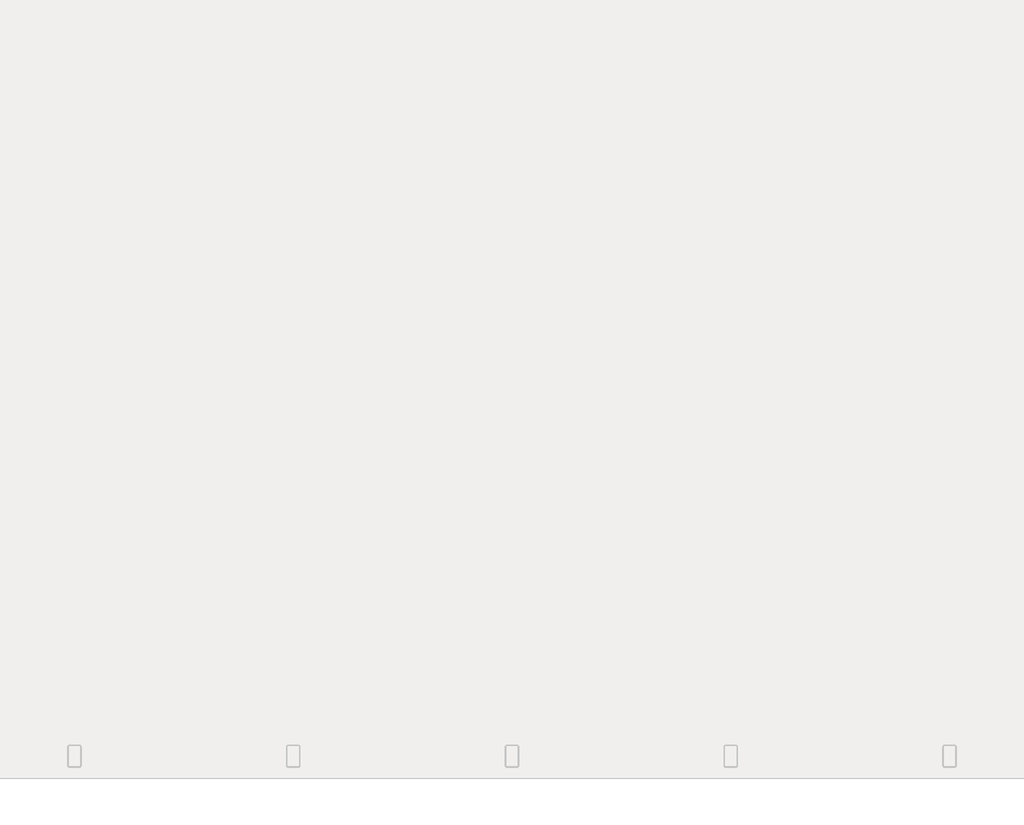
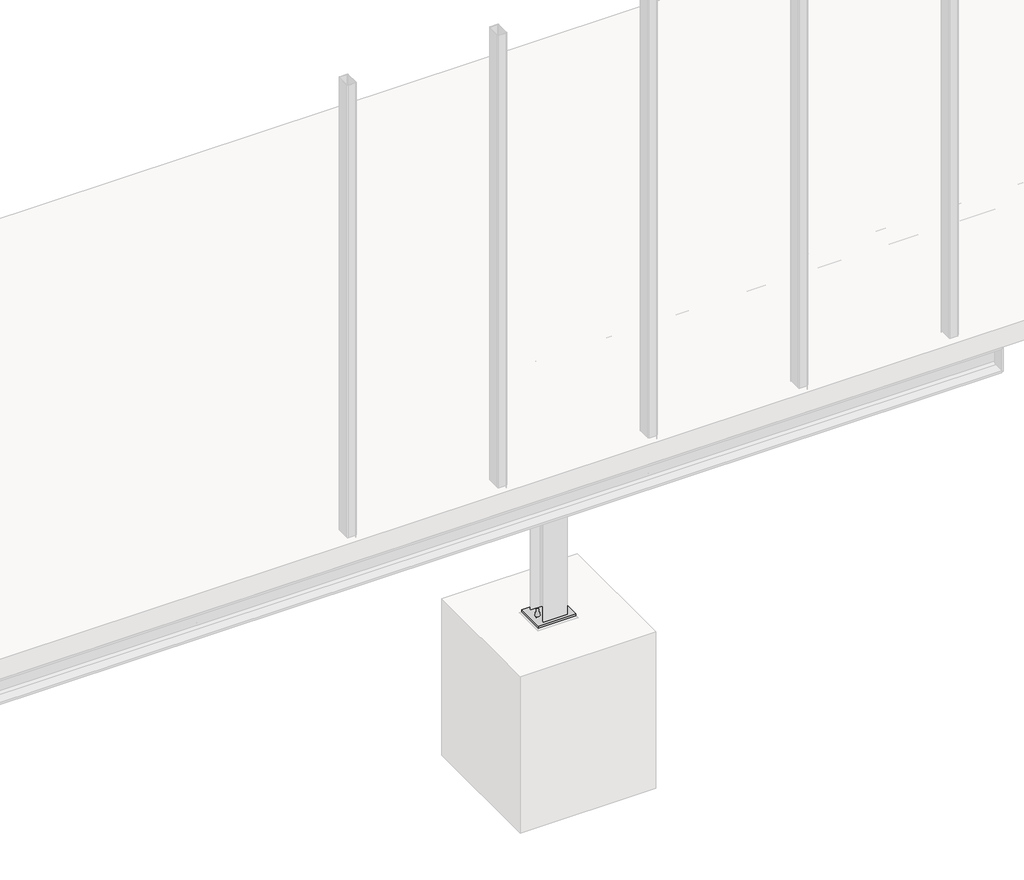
# One storey, part 10 of 36: 11 proxies.
"""IFC4 building model written with IfcOpenShell, lengths in millimetres."""

from ifc_helpers import new_model, si_unit, point, frame, frame_2d, origin, place, context, project, spatial, polyline, circle_curve, trimmed, segment, composite_curve, outline, extrude, element, save

model = new_model("IFC4")

# Units and contexts
model_context = context("Model", 3, world=origin())
ifc_project = project(units=[si_unit("LENGTHUNIT", "METRE", prefix="MILLI")], contexts=[model_context])

# Site, building, storey
site = spatial("IfcSite", under=ifc_project)
building = spatial("IfcBuilding", under=site)
storey = spatial("IfcBuildingStorey", under=building, Name="Základy", Elevation=-1200.0)

# Proxies
placement = place(None, origin())
element("IfcBuildingElementProxy", 1, Name="PLECH", ObjectType="PLECH", at=placement, inside=storey, context=model_context, shape_type="SweptSolid", body=[
    extrude(outline(polyline([(6150.0, 1200.0), (6150.0, 1320.0), (6160.0, 1320.0), (6160.0, 1200.0), (6150.0, 1200.0)])), frame((0.0, 0.0, -299.0), z_axis=(0.0, 0.0, 1.0), x_axis=(1.0, 0.0, 0.0)), (0.0, 0.0, 1.0), 98.0),
])
element("IfcBuildingElementProxy", 2, Name="PLECH", ObjectType="PLECH", at=placement, inside=storey, context=model_context, shape_type="SweptSolid", body=[
    extrude(outline(polyline([(6140.0, 1200.0), (6140.0, 1320.0), (6150.0, 1320.0), (6150.0, 1200.0), (6140.0, 1200.0)])), frame((0.0, 0.0, -332.0), z_axis=(0.0, 0.0, 1.0), x_axis=(1.0, 0.0, 0.0)), (0.0, 0.0, 1.0), 164.0),
])
element("IfcBuildingElementProxy", 3, Name="PLECH", ObjectType="PLECH", at=placement, inside=storey, context=model_context, shape_type="SweptSolid", body=[
    extrude(outline(composite_curve([segment(polyline([(-174.0, 6140.0), (-174.0, 6079.5)]), True, "CONTINUOUS"), segment(trimmed(circle_curve(frame_2d((-174.0, 6054.5)), 25.0), [point((-174.0, 6079.5))], [point((-199.0, 6054.5))], True, "CARTESIAN"), True, "CONTINUOUS"), segment(polyline([(-199.0, 6054.5), (-301.0, 6054.5)]), True, "CONTINUOUS"), segment(trimmed(circle_curve(frame_2d((-326.0, 6054.5)), 25.0), [point((-301.0, 6054.5))], [point((-326.0, 6079.5))], True, "CARTESIAN"), True, "CONTINUOUS"), segment(polyline([(-326.0, 6079.5), (-326.0, 6140.0), (-174.0, 6140.0)]), True, "CONTINUOUS")], self_intersect=False)), frame((0.0, 1256.0, 0.0), z_axis=(0.0, 1.0, 0.0), x_axis=(0.0, 0.0, 1.0)), (0.0, 0.0, 1.0), 8.0),
])
element("IfcBuildingElementProxy", 4, Name="PLECH", ObjectType="PLECH", at=placement, inside=storey, context=model_context, shape_type="SweptSolid", body=[
    extrude(outline(composite_curve([segment(polyline([(-174.0, 5960.0), (-326.0, 5960.0), (-326.0, 6020.5)]), True, "CONTINUOUS"), segment(trimmed(circle_curve(frame_2d((-326.0, 6045.5)), 25.0), [point((-326.0, 6020.5))], [point((-301.0, 6045.5))], True, "CARTESIAN"), True, "CONTINUOUS"), segment(polyline([(-301.0, 6045.5), (-199.0, 6045.5)]), True, "CONTINUOUS"), segment(trimmed(circle_curve(frame_2d((-174.0, 6045.5)), 25.0), [point((-199.0, 6045.5))], [point((-174.0, 6020.5))], True, "CARTESIAN"), True, "CONTINUOUS"), segment(polyline([(-174.0, 6020.5), (-174.0, 5960.0)]), True, "CONTINUOUS")], self_intersect=False)), frame((0.0, 1256.0, 0.0), z_axis=(0.0, 1.0, 0.0), x_axis=(0.0, 0.0, 1.0)), (0.0, 0.0, 1.0), 8.0),
])
element("IfcBuildingElementProxy", 5, Name="PLECH", ObjectType="PLECH", at=placement, inside=storey, context=model_context, shape_type="SweptSolid", body=[
    extrude(outline(polyline([(5960.0, 210.0), (6140.0, 210.0), (6140.0, 200.0), (5960.0, 200.0), (5960.0, 210.0)])), frame((0.0, 0.0, -332.0), z_axis=(0.0, 0.0, 1.0), x_axis=(1.0, 0.0, 0.0)), (0.0, 0.0, 1.0), 164.0),
])
element("IfcBuildingElementProxy", 6, Name="PLECH", ObjectType="PLECH", at=placement, inside=storey, context=model_context, shape_type="SweptSolid", body=[
    extrude(outline(polyline([(6175.0, 1356.0), (6175.0, 1164.0), (5925.0, 1164.0), (5925.0, 1356.0), (6175.0, 1356.0)])), frame((0.0, 0.0, -1990.0), z_axis=(0.0, 0.0, 1.0), x_axis=(1.0, 0.0, 0.0)), (0.0, 0.0, 1.0), 15.0),
])
element("IfcBuildingElementProxy", 7, Name="PLECH", ObjectType="PLECH", at=placement, inside=storey, context=model_context, shape_type="SweptSolid", body=[
    extrude(outline(composite_curve([segment(polyline([(190.0, -174.0), (190.0, -326.0), (124.25, -326.0)]), True, "CONTINUOUS"), segment(trimmed(circle_curve(frame_2d((104.25, -326.0)), 20.0), [point((124.25, -326.0))], [point((104.25, -306.0))], True, "CARTESIAN"), True, "CONTINUOUS"), segment(polyline([(104.25, -306.0), (104.25, -194.0)]), True, "CONTINUOUS"), segment(trimmed(circle_curve(frame_2d((104.25, -174.0)), 20.0), [point((104.25, -194.0))], [point((124.25, -174.0))], True, "CARTESIAN"), True, "CONTINUOUS"), segment(polyline([(124.25, -174.0), (190.0, -174.0)]), True, "CONTINUOUS")], self_intersect=False)), frame((6046.0, 0.0, 0.0), z_axis=(1.0, 0.0, 0.0), x_axis=(0.0, 1.0, 0.0)), (0.0, 0.0, 1.0), 8.0),
])
element("IfcBuildingElementProxy", 8, Name="PLECH", ObjectType="PLECH", at=placement, inside=storey, context=model_context, shape_type="SweptSolid", body=[
    extrude(outline(polyline([(5960.0, 200.0), (6140.0, 200.0), (6140.0, 190.0), (5960.0, 190.0), (5960.0, 200.0)])), frame((0.0, 0.0, -332.0), z_axis=(0.0, 0.0, 1.0), x_axis=(1.0, 0.0, 0.0)), (0.0, 0.0, 1.0), 164.0),
])
element("IfcBuildingElementProxy", 9, Name="Bolt assembly", ObjectType="Bolt assembly", at=placement, inside=storey, context=model_context, shape_type="SweptSolid", body=[
    extrude(outline(composite_curve([segment(trimmed(circle_curve(frame_2d((1230.0, -225.0)), 6.5), [point((1230.0, -231.5))], [point((1230.0, -218.5))], False, "CARTESIAN"), True, "CONTINUOUS"), segment(trimmed(circle_curve(frame_2d((1230.0, -225.0)), 6.5), [point((1230.0, -218.5))], [point((1230.0, -231.5))], False, "CARTESIAN"), True, "CONTINUOUS")], self_intersect=False)), frame((5949.9, 0.0, 0.0), z_axis=(1.0, 0.0, 0.0), x_axis=(0.0, 1.0, 0.0)), (0.0, 0.0, 1.0), 10.0),
    extrude(outline(polyline([(1230.0, -235.3923048), (1221.0, -230.1961524), (1221.0, -219.8038476), (1230.0, -214.6076952), (1239.0, -219.8038476), (1239.0, -230.1961524), (1230.0, -235.3923048)])), frame((5962.5, 0.0, 0.0), z_axis=(1.0, 0.0, 0.0), x_axis=(0.0, 1.0, 0.0)), (0.0, 0.0, 1.0), 7.5),
    extrude(outline(composite_curve([segment(trimmed(circle_curve(frame_2d((1230.0, -225.0)), 6.0), [point((1230.0, -231.0))], [point((1230.0, -219.0))], False, "CARTESIAN"), True, "CONTINUOUS"), segment(trimmed(circle_curve(frame_2d((1230.0, -225.0)), 6.0), [point((1230.0, -219.0))], [point((1230.0, -231.0))], False, "CARTESIAN"), True, "CONTINUOUS")], self_intersect=False)), frame((5922.5, 0.0, 0.0), z_axis=(1.0, 0.0, 0.0), x_axis=(0.0, 1.0, 0.0)), (0.0, 0.0, 1.0), 40.0),
    extrude(outline(composite_curve([segment(trimmed(circle_curve(frame_2d((1230.0, -225.0)), 12.0), [point((1230.0, -237.0))], [point((1230.0, -213.0))], False, "CARTESIAN"), True, "CONTINUOUS"), segment(trimmed(circle_curve(frame_2d((1230.0, -225.0)), 12.0), [point((1230.0, -213.0))], [point((1230.0, -237.0))], False, "CARTESIAN"), True, "CONTINUOUS")], self_intersect=False)), frame((5960.0, 0.0, 0.0), z_axis=(1.0, 0.0, 0.0), x_axis=(0.0, 1.0, 0.0)), (0.0, 0.0, 1.0), 2.5),
    extrude(outline(composite_curve([segment(trimmed(circle_curve(frame_2d((1230.0, -225.0)), 12.0), [point((1230.0, -237.0))], [point((1230.0, -213.0))], False, "CARTESIAN"), True, "CONTINUOUS"), segment(trimmed(circle_curve(frame_2d((1230.0, -225.0)), 12.0), [point((1230.0, -213.0))], [point((1230.0, -237.0))], False, "CARTESIAN"), True, "CONTINUOUS")], self_intersect=False)), frame((5937.5, 0.0, 0.0), z_axis=(1.0, 0.0, 0.0), x_axis=(0.0, 1.0, 0.0)), (0.0, 0.0, 1.0), 2.5),
    extrude(outline(polyline([(1230.0, -235.9696551), (1220.5, -230.4848276), (1220.5, -219.5151724), (1230.0, -214.0303449), (1239.5, -219.5151724), (1239.5, -230.4848276), (1230.0, -235.9696551)])), frame((5927.5, 0.0, 0.0), z_axis=(1.0, 0.0, 0.0), x_axis=(0.0, 1.0, 0.0)), (0.0, 0.0, 1.0), 10.0),
    extrude(outline(composite_curve([segment(trimmed(circle_curve(frame_2d((1230.0, -225.0)), 6.5), [point((1230.0, -231.5))], [point((1230.0, -218.5))], False, "CARTESIAN"), True, "CONTINUOUS"), segment(trimmed(circle_curve(frame_2d((1230.0, -225.0)), 6.5), [point((1230.0, -218.5))], [point((1230.0, -231.5))], False, "CARTESIAN"), True, "CONTINUOUS")], self_intersect=False)), frame((5940.0, 0.0, 0.0), z_axis=(1.0, 0.0, 0.0), x_axis=(0.0, 1.0, 0.0)), (0.0, 0.0, 1.0), 10.1),
    extrude(outline(composite_curve([segment(trimmed(circle_curve(frame_2d((1230.0, -275.0)), 6.5), [point((1230.0, -281.5))], [point((1230.0, -268.5))], False, "CARTESIAN"), True, "CONTINUOUS"), segment(trimmed(circle_curve(frame_2d((1230.0, -275.0)), 6.5), [point((1230.0, -268.5))], [point((1230.0, -281.5))], False, "CARTESIAN"), True, "CONTINUOUS")], self_intersect=False)), frame((5949.9, 0.0, 0.0), z_axis=(1.0, 0.0, 0.0), x_axis=(0.0, 1.0, 0.0)), (0.0, 0.0, 1.0), 10.0),
    extrude(outline(polyline([(1230.0, -285.3923048), (1221.0, -280.1961524), (1221.0, -269.8038476), (1230.0, -264.6076952), (1239.0, -269.8038476), (1239.0, -280.1961524), (1230.0, -285.3923048)])), frame((5962.5, 0.0, 0.0), z_axis=(1.0, 0.0, 0.0), x_axis=(0.0, 1.0, 0.0)), (0.0, 0.0, 1.0), 7.5),
    extrude(outline(composite_curve([segment(trimmed(circle_curve(frame_2d((1230.0, -275.0)), 6.0), [point((1230.0, -281.0))], [point((1230.0, -269.0))], False, "CARTESIAN"), True, "CONTINUOUS"), segment(trimmed(circle_curve(frame_2d((1230.0, -275.0)), 6.0), [point((1230.0, -269.0))], [point((1230.0, -281.0))], False, "CARTESIAN"), True, "CONTINUOUS")], self_intersect=False)), frame((5922.5, 0.0, 0.0), z_axis=(1.0, 0.0, 0.0), x_axis=(0.0, 1.0, 0.0)), (0.0, 0.0, 1.0), 40.0),
    extrude(outline(composite_curve([segment(trimmed(circle_curve(frame_2d((1230.0, -275.0)), 12.0), [point((1230.0, -287.0))], [point((1230.0, -263.0))], False, "CARTESIAN"), True, "CONTINUOUS"), segment(trimmed(circle_curve(frame_2d((1230.0, -275.0)), 12.0), [point((1230.0, -263.0))], [point((1230.0, -287.0))], False, "CARTESIAN"), True, "CONTINUOUS")], self_intersect=False)), frame((5960.0, 0.0, 0.0), z_axis=(1.0, 0.0, 0.0), x_axis=(0.0, 1.0, 0.0)), (0.0, 0.0, 1.0), 2.5),
    extrude(outline(composite_curve([segment(trimmed(circle_curve(frame_2d((1230.0, -275.0)), 12.0), [point((1230.0, -287.0))], [point((1230.0, -263.0))], False, "CARTESIAN"), True, "CONTINUOUS"), segment(trimmed(circle_curve(frame_2d((1230.0, -275.0)), 12.0), [point((1230.0, -263.0))], [point((1230.0, -287.0))], False, "CARTESIAN"), True, "CONTINUOUS")], self_intersect=False)), frame((5937.5, 0.0, 0.0), z_axis=(1.0, 0.0, 0.0), x_axis=(0.0, 1.0, 0.0)), (0.0, 0.0, 1.0), 2.5),
    extrude(outline(polyline([(1230.0, -285.9696551), (1220.5, -280.4848276), (1220.5, -269.5151724), (1230.0, -264.0303449), (1239.5, -269.5151724), (1239.5, -280.4848276), (1230.0, -285.9696551)])), frame((5927.5, 0.0, 0.0), z_axis=(1.0, 0.0, 0.0), x_axis=(0.0, 1.0, 0.0)), (0.0, 0.0, 1.0), 10.0),
    extrude(outline(composite_curve([segment(trimmed(circle_curve(frame_2d((1230.0, -275.0)), 6.5), [point((1230.0, -281.5))], [point((1230.0, -268.5))], False, "CARTESIAN"), True, "CONTINUOUS"), segment(trimmed(circle_curve(frame_2d((1230.0, -275.0)), 6.5), [point((1230.0, -268.5))], [point((1230.0, -281.5))], False, "CARTESIAN"), True, "CONTINUOUS")], self_intersect=False)), frame((5940.0, 0.0, 0.0), z_axis=(1.0, 0.0, 0.0), x_axis=(0.0, 1.0, 0.0)), (0.0, 0.0, 1.0), 10.1),
    extrude(outline(composite_curve([segment(trimmed(circle_curve(frame_2d((1290.0, -225.0)), 6.5), [point((1290.0, -231.5))], [point((1290.0, -218.5))], False, "CARTESIAN"), True, "CONTINUOUS"), segment(trimmed(circle_curve(frame_2d((1290.0, -225.0)), 6.5), [point((1290.0, -218.5))], [point((1290.0, -231.5))], False, "CARTESIAN"), True, "CONTINUOUS")], self_intersect=False)), frame((5949.9, 0.0, 0.0), z_axis=(1.0, 0.0, 0.0), x_axis=(0.0, 1.0, 0.0)), (0.0, 0.0, 1.0), 10.0),
    extrude(outline(polyline([(1290.0, -235.3923048), (1281.0, -230.1961524), (1281.0, -219.8038476), (1290.0, -214.6076952), (1299.0, -219.8038476), (1299.0, -230.1961524), (1290.0, -235.3923048)])), frame((5962.5, 0.0, 0.0), z_axis=(1.0, 0.0, 0.0), x_axis=(0.0, 1.0, 0.0)), (0.0, 0.0, 1.0), 7.5),
    extrude(outline(composite_curve([segment(trimmed(circle_curve(frame_2d((1290.0, -225.0)), 6.0), [point((1290.0, -231.0))], [point((1290.0, -219.0))], False, "CARTESIAN"), True, "CONTINUOUS"), segment(trimmed(circle_curve(frame_2d((1290.0, -225.0)), 6.0), [point((1290.0, -219.0))], [point((1290.0, -231.0))], False, "CARTESIAN"), True, "CONTINUOUS")], self_intersect=False)), frame((5922.5, 0.0, 0.0), z_axis=(1.0, 0.0, 0.0), x_axis=(0.0, 1.0, 0.0)), (0.0, 0.0, 1.0), 40.0),
    extrude(outline(composite_curve([segment(trimmed(circle_curve(frame_2d((1290.0, -225.0)), 12.0), [point((1290.0, -237.0))], [point((1290.0, -213.0))], False, "CARTESIAN"), True, "CONTINUOUS"), segment(trimmed(circle_curve(frame_2d((1290.0, -225.0)), 12.0), [point((1290.0, -213.0))], [point((1290.0, -237.0))], False, "CARTESIAN"), True, "CONTINUOUS")], self_intersect=False)), frame((5960.0, 0.0, 0.0), z_axis=(1.0, 0.0, 0.0), x_axis=(0.0, 1.0, 0.0)), (0.0, 0.0, 1.0), 2.5),
    extrude(outline(composite_curve([segment(trimmed(circle_curve(frame_2d((1290.0, -225.0)), 12.0), [point((1290.0, -237.0))], [point((1290.0, -213.0))], False, "CARTESIAN"), True, "CONTINUOUS"), segment(trimmed(circle_curve(frame_2d((1290.0, -225.0)), 12.0), [point((1290.0, -213.0))], [point((1290.0, -237.0))], False, "CARTESIAN"), True, "CONTINUOUS")], self_intersect=False)), frame((5937.5, 0.0, 0.0), z_axis=(1.0, 0.0, 0.0), x_axis=(0.0, 1.0, 0.0)), (0.0, 0.0, 1.0), 2.5),
    extrude(outline(polyline([(1290.0, -235.9696551), (1280.5, -230.4848276), (1280.5, -219.5151724), (1290.0, -214.0303449), (1299.5, -219.5151724), (1299.5, -230.4848276), (1290.0, -235.9696551)])), frame((5927.5, 0.0, 0.0), z_axis=(1.0, 0.0, 0.0), x_axis=(0.0, 1.0, 0.0)), (0.0, 0.0, 1.0), 10.0),
    extrude(outline(composite_curve([segment(trimmed(circle_curve(frame_2d((1290.0, -225.0)), 6.5), [point((1290.0, -231.5))], [point((1290.0, -218.5))], False, "CARTESIAN"), True, "CONTINUOUS"), segment(trimmed(circle_curve(frame_2d((1290.0, -225.0)), 6.5), [point((1290.0, -218.5))], [point((1290.0, -231.5))], False, "CARTESIAN"), True, "CONTINUOUS")], self_intersect=False)), frame((5940.0, 0.0, 0.0), z_axis=(1.0, 0.0, 0.0), x_axis=(0.0, 1.0, 0.0)), (0.0, 0.0, 1.0), 10.1),
    extrude(outline(composite_curve([segment(trimmed(circle_curve(frame_2d((1290.0, -275.0)), 6.5), [point((1290.0, -281.5))], [point((1290.0, -268.5))], False, "CARTESIAN"), True, "CONTINUOUS"), segment(trimmed(circle_curve(frame_2d((1290.0, -275.0)), 6.5), [point((1290.0, -268.5))], [point((1290.0, -281.5))], False, "CARTESIAN"), True, "CONTINUOUS")], self_intersect=False)), frame((5949.9, 0.0, 0.0), z_axis=(1.0, 0.0, 0.0), x_axis=(0.0, 1.0, 0.0)), (0.0, 0.0, 1.0), 10.0),
    extrude(outline(polyline([(1290.0, -285.3923048), (1281.0, -280.1961524), (1281.0, -269.8038476), (1290.0, -264.6076952), (1299.0, -269.8038476), (1299.0, -280.1961524), (1290.0, -285.3923048)])), frame((5962.5, 0.0, 0.0), z_axis=(1.0, 0.0, 0.0), x_axis=(0.0, 1.0, 0.0)), (0.0, 0.0, 1.0), 7.5),
    extrude(outline(composite_curve([segment(trimmed(circle_curve(frame_2d((1290.0, -275.0)), 6.0), [point((1290.0, -281.0))], [point((1290.0, -269.0))], False, "CARTESIAN"), True, "CONTINUOUS"), segment(trimmed(circle_curve(frame_2d((1290.0, -275.0)), 6.0), [point((1290.0, -269.0))], [point((1290.0, -281.0))], False, "CARTESIAN"), True, "CONTINUOUS")], self_intersect=False)), frame((5922.5, 0.0, 0.0), z_axis=(1.0, 0.0, 0.0), x_axis=(0.0, 1.0, 0.0)), (0.0, 0.0, 1.0), 40.0),
    extrude(outline(composite_curve([segment(trimmed(circle_curve(frame_2d((1290.0, -275.0)), 12.0), [point((1290.0, -287.0))], [point((1290.0, -263.0))], False, "CARTESIAN"), True, "CONTINUOUS"), segment(trimmed(circle_curve(frame_2d((1290.0, -275.0)), 12.0), [point((1290.0, -263.0))], [point((1290.0, -287.0))], False, "CARTESIAN"), True, "CONTINUOUS")], self_intersect=False)), frame((5960.0, 0.0, 0.0), z_axis=(1.0, 0.0, 0.0), x_axis=(0.0, 1.0, 0.0)), (0.0, 0.0, 1.0), 2.5),
    extrude(outline(composite_curve([segment(trimmed(circle_curve(frame_2d((1290.0, -275.0)), 12.0), [point((1290.0, -287.0))], [point((1290.0, -263.0))], False, "CARTESIAN"), True, "CONTINUOUS"), segment(trimmed(circle_curve(frame_2d((1290.0, -275.0)), 12.0), [point((1290.0, -263.0))], [point((1290.0, -287.0))], False, "CARTESIAN"), True, "CONTINUOUS")], self_intersect=False)), frame((5937.5, 0.0, 0.0), z_axis=(1.0, 0.0, 0.0), x_axis=(0.0, 1.0, 0.0)), (0.0, 0.0, 1.0), 2.5),
    extrude(outline(polyline([(1290.0, -285.9696551), (1280.5, -280.4848276), (1280.5, -269.5151724), (1290.0, -264.0303449), (1299.5, -269.5151724), (1299.5, -280.4848276), (1290.0, -285.9696551)])), frame((5927.5, 0.0, 0.0), z_axis=(1.0, 0.0, 0.0), x_axis=(0.0, 1.0, 0.0)), (0.0, 0.0, 1.0), 10.0),
    extrude(outline(composite_curve([segment(trimmed(circle_curve(frame_2d((1290.0, -275.0)), 6.5), [point((1290.0, -281.5))], [point((1290.0, -268.5))], False, "CARTESIAN"), True, "CONTINUOUS"), segment(trimmed(circle_curve(frame_2d((1290.0, -275.0)), 6.5), [point((1290.0, -268.5))], [point((1290.0, -281.5))], False, "CARTESIAN"), True, "CONTINUOUS")], self_intersect=False)), frame((5940.0, 0.0, 0.0), z_axis=(1.0, 0.0, 0.0), x_axis=(0.0, 1.0, 0.0)), (0.0, 0.0, 1.0), 10.1),
])
element("IfcBuildingElementProxy", 10, Name="Bolt assembly", ObjectType="Bolt assembly", at=placement, inside=storey, context=model_context, shape_type="SweptSolid", body=[
    extrude(outline(composite_curve([segment(trimmed(circle_curve(frame_2d((1230.0, -225.0)), 6.5), [point((1230.0, -231.5))], [point((1230.0, -218.5))], False, "CARTESIAN"), True, "CONTINUOUS"), segment(trimmed(circle_curve(frame_2d((1230.0, -225.0)), 6.5), [point((1230.0, -218.5))], [point((1230.0, -231.5))], False, "CARTESIAN"), True, "CONTINUOUS")], self_intersect=False)), frame((6140.1, 0.0, 0.0), z_axis=(1.0, 0.0, 0.0), x_axis=(0.0, 1.0, 0.0)), (0.0, 0.0, 1.0), 10.0),
    extrude(outline(polyline([(1230.0, -235.3923048), (1221.0, -230.1961524), (1221.0, -219.8038476), (1230.0, -214.6076952), (1239.0, -219.8038476), (1239.0, -230.1961524), (1230.0, -235.3923048)])), frame((6130.0, 0.0, 0.0), z_axis=(1.0, 0.0, 0.0), x_axis=(0.0, 1.0, 0.0)), (0.0, 0.0, 1.0), 7.5),
    extrude(outline(composite_curve([segment(trimmed(circle_curve(frame_2d((1230.0, -225.0)), 6.0), [point((1230.0, -231.0))], [point((1230.0, -219.0))], False, "CARTESIAN"), True, "CONTINUOUS"), segment(trimmed(circle_curve(frame_2d((1230.0, -225.0)), 6.0), [point((1230.0, -219.0))], [point((1230.0, -231.0))], False, "CARTESIAN"), True, "CONTINUOUS")], self_intersect=False)), frame((6137.5, 0.0, 0.0), z_axis=(1.0, 0.0, 0.0), x_axis=(0.0, 1.0, 0.0)), (0.0, 0.0, 1.0), 40.0),
    extrude(outline(composite_curve([segment(trimmed(circle_curve(frame_2d((1230.0, -225.0)), 12.0), [point((1230.0, -237.0))], [point((1230.0, -213.0))], False, "CARTESIAN"), True, "CONTINUOUS"), segment(trimmed(circle_curve(frame_2d((1230.0, -225.0)), 12.0), [point((1230.0, -213.0))], [point((1230.0, -237.0))], False, "CARTESIAN"), True, "CONTINUOUS")], self_intersect=False)), frame((6137.5, 0.0, 0.0), z_axis=(1.0, 0.0, 0.0), x_axis=(0.0, 1.0, 0.0)), (0.0, 0.0, 1.0), 2.5),
    extrude(outline(composite_curve([segment(trimmed(circle_curve(frame_2d((1230.0, -225.0)), 12.0), [point((1230.0, -237.0))], [point((1230.0, -213.0))], False, "CARTESIAN"), True, "CONTINUOUS"), segment(trimmed(circle_curve(frame_2d((1230.0, -225.0)), 12.0), [point((1230.0, -213.0))], [point((1230.0, -237.0))], False, "CARTESIAN"), True, "CONTINUOUS")], self_intersect=False)), frame((6160.0, 0.0, 0.0), z_axis=(1.0, 0.0, 0.0), x_axis=(0.0, 1.0, 0.0)), (0.0, 0.0, 1.0), 2.5),
    extrude(outline(polyline([(1230.0, -235.9696551), (1220.5, -230.4848276), (1220.5, -219.5151724), (1230.0, -214.0303449), (1239.5, -219.5151724), (1239.5, -230.4848276), (1230.0, -235.9696551)])), frame((6162.5, 0.0, 0.0), z_axis=(1.0, 0.0, 0.0), x_axis=(0.0, 1.0, 0.0)), (0.0, 0.0, 1.0), 10.0),
    extrude(outline(composite_curve([segment(trimmed(circle_curve(frame_2d((1230.0, -225.0)), 6.5), [point((1230.0, -231.5))], [point((1230.0, -218.5))], False, "CARTESIAN"), True, "CONTINUOUS"), segment(trimmed(circle_curve(frame_2d((1230.0, -225.0)), 6.5), [point((1230.0, -218.5))], [point((1230.0, -231.5))], False, "CARTESIAN"), True, "CONTINUOUS")], self_intersect=False)), frame((6149.9, 0.0, 0.0), z_axis=(1.0, 0.0, 0.0), x_axis=(0.0, 1.0, 0.0)), (0.0, 0.0, 1.0), 10.1),
    extrude(outline(composite_curve([segment(trimmed(circle_curve(frame_2d((1230.0, -275.0)), 6.5), [point((1230.0, -281.5))], [point((1230.0, -268.5))], False, "CARTESIAN"), True, "CONTINUOUS"), segment(trimmed(circle_curve(frame_2d((1230.0, -275.0)), 6.5), [point((1230.0, -268.5))], [point((1230.0, -281.5))], False, "CARTESIAN"), True, "CONTINUOUS")], self_intersect=False)), frame((6140.1, 0.0, 0.0), z_axis=(1.0, 0.0, 0.0), x_axis=(0.0, 1.0, 0.0)), (0.0, 0.0, 1.0), 10.0),
    extrude(outline(polyline([(1230.0, -285.3923048), (1221.0, -280.1961524), (1221.0, -269.8038476), (1230.0, -264.6076952), (1239.0, -269.8038476), (1239.0, -280.1961524), (1230.0, -285.3923048)])), frame((6130.0, 0.0, 0.0), z_axis=(1.0, 0.0, 0.0), x_axis=(0.0, 1.0, 0.0)), (0.0, 0.0, 1.0), 7.5),
    extrude(outline(composite_curve([segment(trimmed(circle_curve(frame_2d((1230.0, -275.0)), 6.0), [point((1230.0, -281.0))], [point((1230.0, -269.0))], False, "CARTESIAN"), True, "CONTINUOUS"), segment(trimmed(circle_curve(frame_2d((1230.0, -275.0)), 6.0), [point((1230.0, -269.0))], [point((1230.0, -281.0))], False, "CARTESIAN"), True, "CONTINUOUS")], self_intersect=False)), frame((6137.5, 0.0, 0.0), z_axis=(1.0, 0.0, 0.0), x_axis=(0.0, 1.0, 0.0)), (0.0, 0.0, 1.0), 40.0),
    extrude(outline(composite_curve([segment(trimmed(circle_curve(frame_2d((1230.0, -275.0)), 12.0), [point((1230.0, -287.0))], [point((1230.0, -263.0))], False, "CARTESIAN"), True, "CONTINUOUS"), segment(trimmed(circle_curve(frame_2d((1230.0, -275.0)), 12.0), [point((1230.0, -263.0))], [point((1230.0, -287.0))], False, "CARTESIAN"), True, "CONTINUOUS")], self_intersect=False)), frame((6137.5, 0.0, 0.0), z_axis=(1.0, 0.0, 0.0), x_axis=(0.0, 1.0, 0.0)), (0.0, 0.0, 1.0), 2.5),
    extrude(outline(composite_curve([segment(trimmed(circle_curve(frame_2d((1230.0, -275.0)), 12.0), [point((1230.0, -287.0))], [point((1230.0, -263.0))], False, "CARTESIAN"), True, "CONTINUOUS"), segment(trimmed(circle_curve(frame_2d((1230.0, -275.0)), 12.0), [point((1230.0, -263.0))], [point((1230.0, -287.0))], False, "CARTESIAN"), True, "CONTINUOUS")], self_intersect=False)), frame((6160.0, 0.0, 0.0), z_axis=(1.0, 0.0, 0.0), x_axis=(0.0, 1.0, 0.0)), (0.0, 0.0, 1.0), 2.5),
    extrude(outline(polyline([(1230.0, -285.9696551), (1220.5, -280.4848276), (1220.5, -269.5151724), (1230.0, -264.0303449), (1239.5, -269.5151724), (1239.5, -280.4848276), (1230.0, -285.9696551)])), frame((6162.5, 0.0, 0.0), z_axis=(1.0, 0.0, 0.0), x_axis=(0.0, 1.0, 0.0)), (0.0, 0.0, 1.0), 10.0),
    extrude(outline(composite_curve([segment(trimmed(circle_curve(frame_2d((1230.0, -275.0)), 6.5), [point((1230.0, -281.5))], [point((1230.0, -268.5))], False, "CARTESIAN"), True, "CONTINUOUS"), segment(trimmed(circle_curve(frame_2d((1230.0, -275.0)), 6.5), [point((1230.0, -268.5))], [point((1230.0, -281.5))], False, "CARTESIAN"), True, "CONTINUOUS")], self_intersect=False)), frame((6149.9, 0.0, 0.0), z_axis=(1.0, 0.0, 0.0), x_axis=(0.0, 1.0, 0.0)), (0.0, 0.0, 1.0), 10.1),
    extrude(outline(composite_curve([segment(trimmed(circle_curve(frame_2d((1290.0, -225.0)), 6.5), [point((1290.0, -231.5))], [point((1290.0, -218.5))], False, "CARTESIAN"), True, "CONTINUOUS"), segment(trimmed(circle_curve(frame_2d((1290.0, -225.0)), 6.5), [point((1290.0, -218.5))], [point((1290.0, -231.5))], False, "CARTESIAN"), True, "CONTINUOUS")], self_intersect=False)), frame((6140.1, 0.0, 0.0), z_axis=(1.0, 0.0, 0.0), x_axis=(0.0, 1.0, 0.0)), (0.0, 0.0, 1.0), 10.0),
    extrude(outline(polyline([(1290.0, -235.3923048), (1281.0, -230.1961524), (1281.0, -219.8038476), (1290.0, -214.6076952), (1299.0, -219.8038476), (1299.0, -230.1961524), (1290.0, -235.3923048)])), frame((6130.0, 0.0, 0.0), z_axis=(1.0, 0.0, 0.0), x_axis=(0.0, 1.0, 0.0)), (0.0, 0.0, 1.0), 7.5),
    extrude(outline(composite_curve([segment(trimmed(circle_curve(frame_2d((1290.0, -225.0)), 6.0), [point((1290.0, -231.0))], [point((1290.0, -219.0))], False, "CARTESIAN"), True, "CONTINUOUS"), segment(trimmed(circle_curve(frame_2d((1290.0, -225.0)), 6.0), [point((1290.0, -219.0))], [point((1290.0, -231.0))], False, "CARTESIAN"), True, "CONTINUOUS")], self_intersect=False)), frame((6137.5, 0.0, 0.0), z_axis=(1.0, 0.0, 0.0), x_axis=(0.0, 1.0, 0.0)), (0.0, 0.0, 1.0), 40.0),
    extrude(outline(composite_curve([segment(trimmed(circle_curve(frame_2d((1290.0, -225.0)), 12.0), [point((1290.0, -237.0))], [point((1290.0, -213.0))], False, "CARTESIAN"), True, "CONTINUOUS"), segment(trimmed(circle_curve(frame_2d((1290.0, -225.0)), 12.0), [point((1290.0, -213.0))], [point((1290.0, -237.0))], False, "CARTESIAN"), True, "CONTINUOUS")], self_intersect=False)), frame((6137.5, 0.0, 0.0), z_axis=(1.0, 0.0, 0.0), x_axis=(0.0, 1.0, 0.0)), (0.0, 0.0, 1.0), 2.5),
    extrude(outline(composite_curve([segment(trimmed(circle_curve(frame_2d((1290.0, -225.0)), 12.0), [point((1290.0, -237.0))], [point((1290.0, -213.0))], False, "CARTESIAN"), True, "CONTINUOUS"), segment(trimmed(circle_curve(frame_2d((1290.0, -225.0)), 12.0), [point((1290.0, -213.0))], [point((1290.0, -237.0))], False, "CARTESIAN"), True, "CONTINUOUS")], self_intersect=False)), frame((6160.0, 0.0, 0.0), z_axis=(1.0, 0.0, 0.0), x_axis=(0.0, 1.0, 0.0)), (0.0, 0.0, 1.0), 2.5),
    extrude(outline(polyline([(1290.0, -235.9696551), (1280.5, -230.4848276), (1280.5, -219.5151724), (1290.0, -214.0303449), (1299.5, -219.5151724), (1299.5, -230.4848276), (1290.0, -235.9696551)])), frame((6162.5, 0.0, 0.0), z_axis=(1.0, 0.0, 0.0), x_axis=(0.0, 1.0, 0.0)), (0.0, 0.0, 1.0), 10.0),
    extrude(outline(composite_curve([segment(trimmed(circle_curve(frame_2d((1290.0, -225.0)), 6.5), [point((1290.0, -231.5))], [point((1290.0, -218.5))], False, "CARTESIAN"), True, "CONTINUOUS"), segment(trimmed(circle_curve(frame_2d((1290.0, -225.0)), 6.5), [point((1290.0, -218.5))], [point((1290.0, -231.5))], False, "CARTESIAN"), True, "CONTINUOUS")], self_intersect=False)), frame((6149.9, 0.0, 0.0), z_axis=(1.0, 0.0, 0.0), x_axis=(0.0, 1.0, 0.0)), (0.0, 0.0, 1.0), 10.1),
    extrude(outline(composite_curve([segment(trimmed(circle_curve(frame_2d((1290.0, -275.0)), 6.5), [point((1290.0, -281.5))], [point((1290.0, -268.5))], False, "CARTESIAN"), True, "CONTINUOUS"), segment(trimmed(circle_curve(frame_2d((1290.0, -275.0)), 6.5), [point((1290.0, -268.5))], [point((1290.0, -281.5))], False, "CARTESIAN"), True, "CONTINUOUS")], self_intersect=False)), frame((6140.1, 0.0, 0.0), z_axis=(1.0, 0.0, 0.0), x_axis=(0.0, 1.0, 0.0)), (0.0, 0.0, 1.0), 10.0),
    extrude(outline(polyline([(1290.0, -285.3923048), (1281.0, -280.1961524), (1281.0, -269.8038476), (1290.0, -264.6076952), (1299.0, -269.8038476), (1299.0, -280.1961524), (1290.0, -285.3923048)])), frame((6130.0, 0.0, 0.0), z_axis=(1.0, 0.0, 0.0), x_axis=(0.0, 1.0, 0.0)), (0.0, 0.0, 1.0), 7.5),
    extrude(outline(composite_curve([segment(trimmed(circle_curve(frame_2d((1290.0, -275.0)), 6.0), [point((1290.0, -281.0))], [point((1290.0, -269.0))], False, "CARTESIAN"), True, "CONTINUOUS"), segment(trimmed(circle_curve(frame_2d((1290.0, -275.0)), 6.0), [point((1290.0, -269.0))], [point((1290.0, -281.0))], False, "CARTESIAN"), True, "CONTINUOUS")], self_intersect=False)), frame((6137.5, 0.0, 0.0), z_axis=(1.0, 0.0, 0.0), x_axis=(0.0, 1.0, 0.0)), (0.0, 0.0, 1.0), 40.0),
    extrude(outline(composite_curve([segment(trimmed(circle_curve(frame_2d((1290.0, -275.0)), 12.0), [point((1290.0, -287.0))], [point((1290.0, -263.0))], False, "CARTESIAN"), True, "CONTINUOUS"), segment(trimmed(circle_curve(frame_2d((1290.0, -275.0)), 12.0), [point((1290.0, -263.0))], [point((1290.0, -287.0))], False, "CARTESIAN"), True, "CONTINUOUS")], self_intersect=False)), frame((6137.5, 0.0, 0.0), z_axis=(1.0, 0.0, 0.0), x_axis=(0.0, 1.0, 0.0)), (0.0, 0.0, 1.0), 2.5),
    extrude(outline(composite_curve([segment(trimmed(circle_curve(frame_2d((1290.0, -275.0)), 12.0), [point((1290.0, -287.0))], [point((1290.0, -263.0))], False, "CARTESIAN"), True, "CONTINUOUS"), segment(trimmed(circle_curve(frame_2d((1290.0, -275.0)), 12.0), [point((1290.0, -263.0))], [point((1290.0, -287.0))], False, "CARTESIAN"), True, "CONTINUOUS")], self_intersect=False)), frame((6160.0, 0.0, 0.0), z_axis=(1.0, 0.0, 0.0), x_axis=(0.0, 1.0, 0.0)), (0.0, 0.0, 1.0), 2.5),
    extrude(outline(polyline([(1290.0, -285.9696551), (1280.5, -280.4848276), (1280.5, -269.5151724), (1290.0, -264.0303449), (1299.5, -269.5151724), (1299.5, -280.4848276), (1290.0, -285.9696551)])), frame((6162.5, 0.0, 0.0), z_axis=(1.0, 0.0, 0.0), x_axis=(0.0, 1.0, 0.0)), (0.0, 0.0, 1.0), 10.0),
    extrude(outline(composite_curve([segment(trimmed(circle_curve(frame_2d((1290.0, -275.0)), 6.5), [point((1290.0, -281.5))], [point((1290.0, -268.5))], False, "CARTESIAN"), True, "CONTINUOUS"), segment(trimmed(circle_curve(frame_2d((1290.0, -275.0)), 6.5), [point((1290.0, -268.5))], [point((1290.0, -281.5))], False, "CARTESIAN"), True, "CONTINUOUS")], self_intersect=False)), frame((6149.9, 0.0, 0.0), z_axis=(1.0, 0.0, 0.0), x_axis=(0.0, 1.0, 0.0)), (0.0, 0.0, 1.0), 10.1),
])
element("IfcBuildingElementProxy", 11, Name="Bolt assembly", ObjectType="Bolt assembly", at=placement, inside=storey, context=model_context, shape_type="SweptSolid", body=[
    extrude(outline(composite_curve([segment(trimmed(circle_curve(frame_2d((-290.0, 6005.0)), 9.0), [point((-290.0, 6014.0))], [point((-290.0, 5996.0))], False, "CARTESIAN"), True, "CONTINUOUS"), segment(trimmed(circle_curve(frame_2d((-290.0, 6005.0)), 9.0), [point((-290.0, 5996.0))], [point((-290.0, 6014.0))], False, "CARTESIAN"), True, "CONTINUOUS")], self_intersect=False)), frame((0.0, 190.1, 0.0), z_axis=(0.0, 1.0, 0.0), x_axis=(0.0, 0.0, 1.0)), (0.0, 0.0, 1.0), 10.0),
    extrude(outline(polyline([(-290.0, 6018.8564065), (-278.0, 6011.9282032), (-278.0, 5998.0717968), (-290.0, 5991.1435935), (-302.0, 5998.0717968), (-302.0, 6011.9282032), (-290.0, 6018.8564065)])), frame((0.0, 177.0, 0.0), z_axis=(0.0, 1.0, 0.0), x_axis=(0.0, 0.0, 1.0)), (0.0, 0.0, 1.0), 10.0),
    extrude(outline(composite_curve([segment(trimmed(circle_curve(frame_2d((-290.0, 6005.0)), 8.0), [point((-290.0, 6013.0))], [point((-290.0, 5997.0))], False, "CARTESIAN"), True, "CONTINUOUS"), segment(trimmed(circle_curve(frame_2d((-290.0, 6005.0)), 8.0), [point((-290.0, 5997.0))], [point((-290.0, 6013.0))], False, "CARTESIAN"), True, "CONTINUOUS")], self_intersect=False)), frame((0.0, 187.0, 0.0), z_axis=(0.0, 1.0, 0.0), x_axis=(0.0, 0.0, 1.0)), (0.0, 0.0, 1.0), 50.0),
    extrude(outline(composite_curve([segment(trimmed(circle_curve(frame_2d((-290.0, 6005.0)), 15.0), [point((-290.0, 6020.0))], [point((-290.0, 5990.0))], False, "CARTESIAN"), True, "CONTINUOUS"), segment(trimmed(circle_curve(frame_2d((-290.0, 6005.0)), 15.0), [point((-290.0, 5990.0))], [point((-290.0, 6020.0))], False, "CARTESIAN"), True, "CONTINUOUS")], self_intersect=False)), frame((0.0, 187.0, 0.0), z_axis=(0.0, 1.0, 0.0), x_axis=(0.0, 0.0, 1.0)), (0.0, 0.0, 1.0), 3.0),
    extrude(outline(composite_curve([segment(trimmed(circle_curve(frame_2d((-290.0, 6005.0)), 15.0), [point((-290.0, 6020.0))], [point((-290.0, 5990.0))], False, "CARTESIAN"), True, "CONTINUOUS"), segment(trimmed(circle_curve(frame_2d((-290.0, 6005.0)), 15.0), [point((-290.0, 5990.0))], [point((-290.0, 6020.0))], False, "CARTESIAN"), True, "CONTINUOUS")], self_intersect=False)), frame((0.0, 210.0, 0.0), z_axis=(0.0, 1.0, 0.0), x_axis=(0.0, 0.0, 1.0)), (0.0, 0.0, 1.0), 3.0),
    extrude(outline(polyline([(-290.0, 6020.4441197), (-276.625, 6012.7220599), (-276.625, 5997.2779401), (-290.0, 5989.5558803), (-303.375, 5997.2779401), (-303.375, 6012.7220599), (-290.0, 6020.4441197)])), frame((0.0, 213.0, 0.0), z_axis=(0.0, 1.0, 0.0), x_axis=(0.0, 0.0, 1.0)), (0.0, 0.0, 1.0), 13.0),
    extrude(outline(composite_curve([segment(trimmed(circle_curve(frame_2d((-290.0, 6005.0)), 9.0), [point((-290.0, 6014.0))], [point((-290.0, 5996.0))], False, "CARTESIAN"), True, "CONTINUOUS"), segment(trimmed(circle_curve(frame_2d((-290.0, 6005.0)), 9.0), [point((-290.0, 5996.0))], [point((-290.0, 6014.0))], False, "CARTESIAN"), True, "CONTINUOUS")], self_intersect=False)), frame((0.0, 199.9, 0.0), z_axis=(0.0, 1.0, 0.0), x_axis=(0.0, 0.0, 1.0)), (0.0, 0.0, 1.0), 10.1),
    extrude(outline(composite_curve([segment(trimmed(circle_curve(frame_2d((-290.0, 6095.0)), 9.0), [point((-290.0, 6104.0))], [point((-290.0, 6086.0))], False, "CARTESIAN"), True, "CONTINUOUS"), segment(trimmed(circle_curve(frame_2d((-290.0, 6095.0)), 9.0), [point((-290.0, 6086.0))], [point((-290.0, 6104.0))], False, "CARTESIAN"), True, "CONTINUOUS")], self_intersect=False)), frame((0.0, 190.1, 0.0), z_axis=(0.0, 1.0, 0.0), x_axis=(0.0, 0.0, 1.0)), (0.0, 0.0, 1.0), 10.0),
    extrude(outline(polyline([(-290.0, 6108.8564065), (-278.0, 6101.9282032), (-278.0, 6088.0717968), (-290.0, 6081.1435935), (-302.0, 6088.0717968), (-302.0, 6101.9282032), (-290.0, 6108.8564065)])), frame((0.0, 177.0, 0.0), z_axis=(0.0, 1.0, 0.0), x_axis=(0.0, 0.0, 1.0)), (0.0, 0.0, 1.0), 10.0),
    extrude(outline(composite_curve([segment(trimmed(circle_curve(frame_2d((-290.0, 6095.0)), 8.0), [point((-290.0, 6103.0))], [point((-290.0, 6087.0))], False, "CARTESIAN"), True, "CONTINUOUS"), segment(trimmed(circle_curve(frame_2d((-290.0, 6095.0)), 8.0), [point((-290.0, 6087.0))], [point((-290.0, 6103.0))], False, "CARTESIAN"), True, "CONTINUOUS")], self_intersect=False)), frame((0.0, 187.0, 0.0), z_axis=(0.0, 1.0, 0.0), x_axis=(0.0, 0.0, 1.0)), (0.0, 0.0, 1.0), 50.0),
    extrude(outline(composite_curve([segment(trimmed(circle_curve(frame_2d((-290.0, 6095.0)), 15.0), [point((-290.0, 6110.0))], [point((-290.0, 6080.0))], False, "CARTESIAN"), True, "CONTINUOUS"), segment(trimmed(circle_curve(frame_2d((-290.0, 6095.0)), 15.0), [point((-290.0, 6080.0))], [point((-290.0, 6110.0))], False, "CARTESIAN"), True, "CONTINUOUS")], self_intersect=False)), frame((0.0, 187.0, 0.0), z_axis=(0.0, 1.0, 0.0), x_axis=(0.0, 0.0, 1.0)), (0.0, 0.0, 1.0), 3.0),
    extrude(outline(composite_curve([segment(trimmed(circle_curve(frame_2d((-290.0, 6095.0)), 15.0), [point((-290.0, 6110.0))], [point((-290.0, 6080.0))], False, "CARTESIAN"), True, "CONTINUOUS"), segment(trimmed(circle_curve(frame_2d((-290.0, 6095.0)), 15.0), [point((-290.0, 6080.0))], [point((-290.0, 6110.0))], False, "CARTESIAN"), True, "CONTINUOUS")], self_intersect=False)), frame((0.0, 210.0, 0.0), z_axis=(0.0, 1.0, 0.0), x_axis=(0.0, 0.0, 1.0)), (0.0, 0.0, 1.0), 3.0),
    extrude(outline(polyline([(-290.0, 6110.4441197), (-276.625, 6102.7220599), (-276.625, 6087.2779401), (-290.0, 6079.5558803), (-303.375, 6087.2779401), (-303.375, 6102.7220599), (-290.0, 6110.4441197)])), frame((0.0, 213.0, 0.0), z_axis=(0.0, 1.0, 0.0), x_axis=(0.0, 0.0, 1.0)), (0.0, 0.0, 1.0), 13.0),
    extrude(outline(composite_curve([segment(trimmed(circle_curve(frame_2d((-290.0, 6095.0)), 9.0), [point((-290.0, 6104.0))], [point((-290.0, 6086.0))], False, "CARTESIAN"), True, "CONTINUOUS"), segment(trimmed(circle_curve(frame_2d((-290.0, 6095.0)), 9.0), [point((-290.0, 6086.0))], [point((-290.0, 6104.0))], False, "CARTESIAN"), True, "CONTINUOUS")], self_intersect=False)), frame((0.0, 199.9, 0.0), z_axis=(0.0, 1.0, 0.0), x_axis=(0.0, 0.0, 1.0)), (0.0, 0.0, 1.0), 10.1),
    extrude(outline(composite_curve([segment(trimmed(circle_curve(frame_2d((-210.0, 6005.0)), 9.0), [point((-210.0, 6014.0))], [point((-210.0, 5996.0))], False, "CARTESIAN"), True, "CONTINUOUS"), segment(trimmed(circle_curve(frame_2d((-210.0, 6005.0)), 9.0), [point((-210.0, 5996.0))], [point((-210.0, 6014.0))], False, "CARTESIAN"), True, "CONTINUOUS")], self_intersect=False)), frame((0.0, 190.1, 0.0), z_axis=(0.0, 1.0, 0.0), x_axis=(0.0, 0.0, 1.0)), (0.0, 0.0, 1.0), 10.0),
    extrude(outline(polyline([(-210.0, 6018.8564065), (-198.0, 6011.9282032), (-198.0, 5998.0717968), (-210.0, 5991.1435935), (-222.0, 5998.0717968), (-222.0, 6011.9282032), (-210.0, 6018.8564065)])), frame((0.0, 177.0, 0.0), z_axis=(0.0, 1.0, 0.0), x_axis=(0.0, 0.0, 1.0)), (0.0, 0.0, 1.0), 10.0),
    extrude(outline(composite_curve([segment(trimmed(circle_curve(frame_2d((-210.0, 6005.0)), 8.0), [point((-210.0, 6013.0))], [point((-210.0, 5997.0))], False, "CARTESIAN"), True, "CONTINUOUS"), segment(trimmed(circle_curve(frame_2d((-210.0, 6005.0)), 8.0), [point((-210.0, 5997.0))], [point((-210.0, 6013.0))], False, "CARTESIAN"), True, "CONTINUOUS")], self_intersect=False)), frame((0.0, 187.0, 0.0), z_axis=(0.0, 1.0, 0.0), x_axis=(0.0, 0.0, 1.0)), (0.0, 0.0, 1.0), 50.0),
    extrude(outline(composite_curve([segment(trimmed(circle_curve(frame_2d((-210.0, 6005.0)), 15.0), [point((-210.0, 6020.0))], [point((-210.0, 5990.0))], False, "CARTESIAN"), True, "CONTINUOUS"), segment(trimmed(circle_curve(frame_2d((-210.0, 6005.0)), 15.0), [point((-210.0, 5990.0))], [point((-210.0, 6020.0))], False, "CARTESIAN"), True, "CONTINUOUS")], self_intersect=False)), frame((0.0, 187.0, 0.0), z_axis=(0.0, 1.0, 0.0), x_axis=(0.0, 0.0, 1.0)), (0.0, 0.0, 1.0), 3.0),
    extrude(outline(composite_curve([segment(trimmed(circle_curve(frame_2d((-210.0, 6005.0)), 15.0), [point((-210.0, 6020.0))], [point((-210.0, 5990.0))], False, "CARTESIAN"), True, "CONTINUOUS"), segment(trimmed(circle_curve(frame_2d((-210.0, 6005.0)), 15.0), [point((-210.0, 5990.0))], [point((-210.0, 6020.0))], False, "CARTESIAN"), True, "CONTINUOUS")], self_intersect=False)), frame((0.0, 210.0, 0.0), z_axis=(0.0, 1.0, 0.0), x_axis=(0.0, 0.0, 1.0)), (0.0, 0.0, 1.0), 3.0),
    extrude(outline(polyline([(-210.0, 6020.4441197), (-196.625, 6012.7220599), (-196.625, 5997.2779401), (-210.0, 5989.5558803), (-223.375, 5997.2779401), (-223.375, 6012.7220599), (-210.0, 6020.4441197)])), frame((0.0, 213.0, 0.0), z_axis=(0.0, 1.0, 0.0), x_axis=(0.0, 0.0, 1.0)), (0.0, 0.0, 1.0), 13.0),
    extrude(outline(composite_curve([segment(trimmed(circle_curve(frame_2d((-210.0, 6005.0)), 9.0), [point((-210.0, 6014.0))], [point((-210.0, 5996.0))], False, "CARTESIAN"), True, "CONTINUOUS"), segment(trimmed(circle_curve(frame_2d((-210.0, 6005.0)), 9.0), [point((-210.0, 5996.0))], [point((-210.0, 6014.0))], False, "CARTESIAN"), True, "CONTINUOUS")], self_intersect=False)), frame((0.0, 199.9, 0.0), z_axis=(0.0, 1.0, 0.0), x_axis=(0.0, 0.0, 1.0)), (0.0, 0.0, 1.0), 10.1),
    extrude(outline(composite_curve([segment(trimmed(circle_curve(frame_2d((-210.0, 6095.0)), 9.0), [point((-210.0, 6104.0))], [point((-210.0, 6086.0))], False, "CARTESIAN"), True, "CONTINUOUS"), segment(trimmed(circle_curve(frame_2d((-210.0, 6095.0)), 9.0), [point((-210.0, 6086.0))], [point((-210.0, 6104.0))], False, "CARTESIAN"), True, "CONTINUOUS")], self_intersect=False)), frame((0.0, 190.1, 0.0), z_axis=(0.0, 1.0, 0.0), x_axis=(0.0, 0.0, 1.0)), (0.0, 0.0, 1.0), 10.0),
    extrude(outline(polyline([(-210.0, 6108.8564065), (-198.0, 6101.9282032), (-198.0, 6088.0717968), (-210.0, 6081.1435935), (-222.0, 6088.0717968), (-222.0, 6101.9282032), (-210.0, 6108.8564065)])), frame((0.0, 177.0, 0.0), z_axis=(0.0, 1.0, 0.0), x_axis=(0.0, 0.0, 1.0)), (0.0, 0.0, 1.0), 10.0),
    extrude(outline(composite_curve([segment(trimmed(circle_curve(frame_2d((-210.0, 6095.0)), 8.0), [point((-210.0, 6103.0))], [point((-210.0, 6087.0))], False, "CARTESIAN"), True, "CONTINUOUS"), segment(trimmed(circle_curve(frame_2d((-210.0, 6095.0)), 8.0), [point((-210.0, 6087.0))], [point((-210.0, 6103.0))], False, "CARTESIAN"), True, "CONTINUOUS")], self_intersect=False)), frame((0.0, 187.0, 0.0), z_axis=(0.0, 1.0, 0.0), x_axis=(0.0, 0.0, 1.0)), (0.0, 0.0, 1.0), 50.0),
    extrude(outline(composite_curve([segment(trimmed(circle_curve(frame_2d((-210.0, 6095.0)), 15.0), [point((-210.0, 6110.0))], [point((-210.0, 6080.0))], False, "CARTESIAN"), True, "CONTINUOUS"), segment(trimmed(circle_curve(frame_2d((-210.0, 6095.0)), 15.0), [point((-210.0, 6080.0))], [point((-210.0, 6110.0))], False, "CARTESIAN"), True, "CONTINUOUS")], self_intersect=False)), frame((0.0, 187.0, 0.0), z_axis=(0.0, 1.0, 0.0), x_axis=(0.0, 0.0, 1.0)), (0.0, 0.0, 1.0), 3.0),
    extrude(outline(composite_curve([segment(trimmed(circle_curve(frame_2d((-210.0, 6095.0)), 15.0), [point((-210.0, 6110.0))], [point((-210.0, 6080.0))], False, "CARTESIAN"), True, "CONTINUOUS"), segment(trimmed(circle_curve(frame_2d((-210.0, 6095.0)), 15.0), [point((-210.0, 6080.0))], [point((-210.0, 6110.0))], False, "CARTESIAN"), True, "CONTINUOUS")], self_intersect=False)), frame((0.0, 210.0, 0.0), z_axis=(0.0, 1.0, 0.0), x_axis=(0.0, 0.0, 1.0)), (0.0, 0.0, 1.0), 3.0),
    extrude(outline(polyline([(-210.0, 6110.4441197), (-196.625, 6102.7220599), (-196.625, 6087.2779401), (-210.0, 6079.5558803), (-223.375, 6087.2779401), (-223.375, 6102.7220599), (-210.0, 6110.4441197)])), frame((0.0, 213.0, 0.0), z_axis=(0.0, 1.0, 0.0), x_axis=(0.0, 0.0, 1.0)), (0.0, 0.0, 1.0), 13.0),
    extrude(outline(composite_curve([segment(trimmed(circle_curve(frame_2d((-210.0, 6095.0)), 9.0), [point((-210.0, 6104.0))], [point((-210.0, 6086.0))], False, "CARTESIAN"), True, "CONTINUOUS"), segment(trimmed(circle_curve(frame_2d((-210.0, 6095.0)), 9.0), [point((-210.0, 6086.0))], [point((-210.0, 6104.0))], False, "CARTESIAN"), True, "CONTINUOUS")], self_intersect=False)), frame((0.0, 199.9, 0.0), z_axis=(0.0, 1.0, 0.0), x_axis=(0.0, 0.0, 1.0)), (0.0, 0.0, 1.0), 10.1),
])

save(model, "model.ifc")
